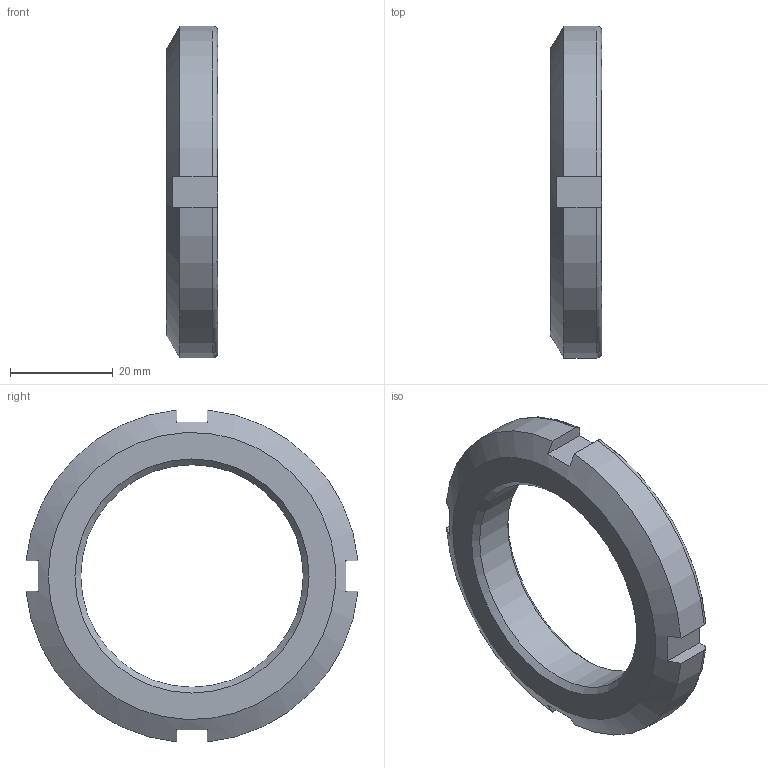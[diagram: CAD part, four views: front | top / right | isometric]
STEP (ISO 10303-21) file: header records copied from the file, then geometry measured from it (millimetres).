
FILE_DESCRIPTION(/* description */ ('Locknuts and locking devices-Dimensions - Locknuts(4 slots)'),/* implementation_level */ '2;1');
FILE_NAME(/* name */ 'D:\lock nut\LOCK NUT ISO 2982-2 - M45 x 1,5 x 56.stp',/* time_stamp */ '2022-04-01T13:49:19+07:00',/* author */ ('USER'),/* organization */ (''),/* preprocessor_version */ 'ST-DEVELOPER v16.1',/* originating_system */ 'Autodesk Inventor 2016',/* authorisation */ '');
FILE_SCHEMA (('AUTOMOTIVE_DESIGN { 1 0 10303 214 3 1 1 }'));
Length unit declared in the file: millimetre
Products named in the file (1): LOCK NUT ISO 2982-2 - M45 x 1,5 x 56
Bounding box: 10 x 64.72 x 64.72 mm (x, y, z)
Volume: 16576 mm3; surface area: 6491.3 mm2
Topology: 1 solids, 1 shells, 26 faces, 72 edges, 48 vertices
Faces by surface type: plane 14, cylinder 5, torus 4, cone 3
Full cylindrical faces by diameter (mm): 43.376 x1
Entity records: 858 total; most frequent: CARTESIAN_POINT 233, ORIENTED_EDGE 130, DIRECTION 116, EDGE_CURVE 65, VERTEX_POINT 45, AXIS2_PLACEMENT_3D 44, EDGE_LOOP 32, LINE 28
